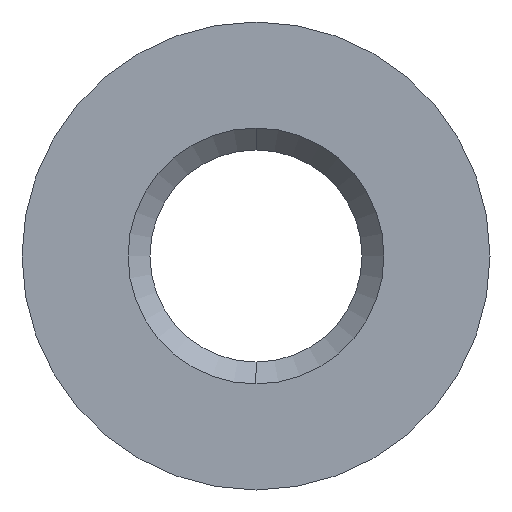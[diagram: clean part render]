
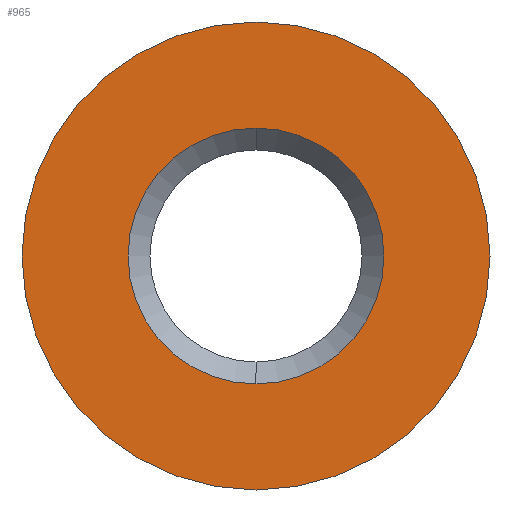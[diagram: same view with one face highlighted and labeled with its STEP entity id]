
A CAD part, left-side view. The second image highlights one B-rep face of the part: STEP entity #965.
In plain terms, the highlighted planar face has unit normal (-1, 0, 0).
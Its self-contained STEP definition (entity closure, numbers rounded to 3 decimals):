
#95 = EDGE_CURVE ( 'NONE', #774, #316, #584, .T. ) ;
#96 = CARTESIAN_POINT ( 'NONE',  ( -7.04, 0., 1.75 ) ) ;
#131 = CARTESIAN_POINT ( 'NONE',  ( -7.04, 0., 0. ) ) ;
#159 = ORIENTED_EDGE ( 'NONE', *, *, #605, .T. ) ;
#208 = AXIS2_PLACEMENT_3D ( 'NONE', #918, #513, #664 ) ;
#227 = AXIS2_PLACEMENT_3D ( 'NONE', #131, #667, #996 ) ;
#258 = EDGE_CURVE ( 'NONE', #932, #740, #313, .T. ) ;
#274 = AXIS2_PLACEMENT_3D ( 'NONE', #788, #628, #458 ) ;
#287 = PLANE ( 'NONE',  #274 ) ;
#313 = CIRCLE ( 'NONE', #907, 3.2 ) ;
#316 = VERTEX_POINT ( 'NONE', #973 ) ;
#354 = DIRECTION ( 'NONE',  ( -1., 0., 0. ) ) ;
#393 = EDGE_LOOP ( 'NONE', ( #416, #534 ) ) ;
#416 = ORIENTED_EDGE ( 'NONE', *, *, #95, .T. ) ;
#458 = DIRECTION ( 'NONE',  ( 0., 0., 1. ) ) ;
#495 = ORIENTED_EDGE ( 'NONE', *, *, #258, .T. ) ;
#512 = CARTESIAN_POINT ( 'NONE',  ( -7.04, 0., 3.2 ) ) ;
#513 = DIRECTION ( 'NONE',  ( 1., 0., 0. ) ) ;
#533 = FACE_BOUND ( 'NONE', #393, .T. ) ;
#534 = ORIENTED_EDGE ( 'NONE', *, *, #947, .T. ) ;
#542 = CARTESIAN_POINT ( 'NONE',  ( -7.04, 0., 0. ) ) ;
#549 = DIRECTION ( 'NONE',  ( 1., 0., 0. ) ) ;
#584 = CIRCLE ( 'NONE', #208, 1.75 ) ;
#605 = EDGE_CURVE ( 'NONE', #740, #932, #942, .T. ) ;
#628 = DIRECTION ( 'NONE',  ( -1., 0., 0. ) ) ;
#664 = DIRECTION ( 'NONE',  ( 0., 0., 1. ) ) ;
#667 = DIRECTION ( 'NONE',  ( -1., 0., 0. ) ) ;
#700 = DIRECTION ( 'NONE',  ( 0., 0., 1. ) ) ;
#703 = CARTESIAN_POINT ( 'NONE',  ( -7.04, 0., -3.2 ) ) ;
#711 = CIRCLE ( 'NONE', #1000, 1.75 ) ;
#712 = FACE_OUTER_BOUND ( 'NONE', #1052, .T. ) ;
#740 = VERTEX_POINT ( 'NONE', #512 ) ;
#774 = VERTEX_POINT ( 'NONE', #96 ) ;
#788 = CARTESIAN_POINT ( 'NONE',  ( -7.04, 0., 0. ) ) ;
#884 = DIRECTION ( 'NONE',  ( 0., 0., 1. ) ) ;
#907 = AXIS2_PLACEMENT_3D ( 'NONE', #542, #354, #700 ) ;
#918 = CARTESIAN_POINT ( 'NONE',  ( -7.04, 0., 0. ) ) ;
#932 = VERTEX_POINT ( 'NONE', #703 ) ;
#942 = CIRCLE ( 'NONE', #227, 3.2 ) ;
#943 = CARTESIAN_POINT ( 'NONE',  ( -7.04, 0., 0. ) ) ;
#947 = EDGE_CURVE ( 'NONE', #316, #774, #711, .T. ) ;
#965 = ADVANCED_FACE ( 'NONE', ( #533, #712 ), #287, .T. ) ;
#973 = CARTESIAN_POINT ( 'NONE',  ( -7.04, 0., -1.75 ) ) ;
#996 = DIRECTION ( 'NONE',  ( 0., 0., 1. ) ) ;
#1000 = AXIS2_PLACEMENT_3D ( 'NONE', #943, #549, #884 ) ;
#1052 = EDGE_LOOP ( 'NONE', ( #495, #159 ) ) ;
